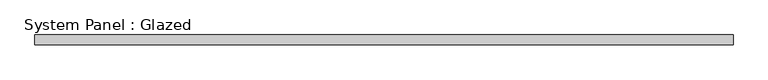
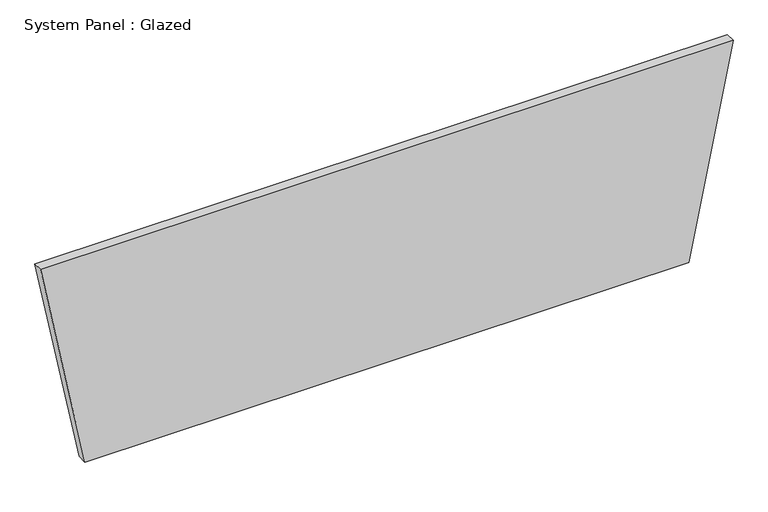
"""IFC4 building model written with IfcOpenShell, lengths in millimetres: plate geometry, System Panel : Glazed."""

from ifc_helpers import new_model, si_unit, frame, origin, place, context, project, spatial, polyline, outline, extrude, source, transform, mapped, element, save


def system_panel_glazed_4c871569(model_context):
    return source(origin(), model_context, "Body", "SweptSolid", [
        extrude(outline(polyline([(0.0, -787.5810944), (0.0, 787.5810944), (572.0638084, 903.469289), (572.0638084, -903.469289), (0.0, -787.5810944)])), frame((0.0, 19.05, 0.0), z_axis=(0.0, 1.0, 0.0), x_axis=(0.0, 0.0, 1.0)), (0.0, 0.0, 1.0), 25.4),
    ])


if __name__ == "__main__":
    model = new_model("IFC4")
    model_context = context("Model", 3, world=origin())
    ifc_project = project(units=[si_unit("LENGTHUNIT", "METRE", prefix="MILLI")], contexts=[model_context])
    site = spatial("IfcSite", under=ifc_project)
    building = spatial("IfcBuilding", under=site)
    placement = place(None, origin())
    system_panel_glazed_shape = system_panel_glazed_4c871569(model_context)
    element("IfcPlate", 1, ObjectType="System Panel : Glazed", at=placement, inside=building, context=model_context, shape_type="MappedRepresentation", body=[
        mapped(system_panel_glazed_shape, transform((0.0, 0.0, 0.0), x_axis=(1.0, 0.0, 0.0), y_axis=(0.0, 1.0, 0.0), z_axis=(0.0, 0.0, 1.0))),
    ])
    save(model, "model.ifc")
